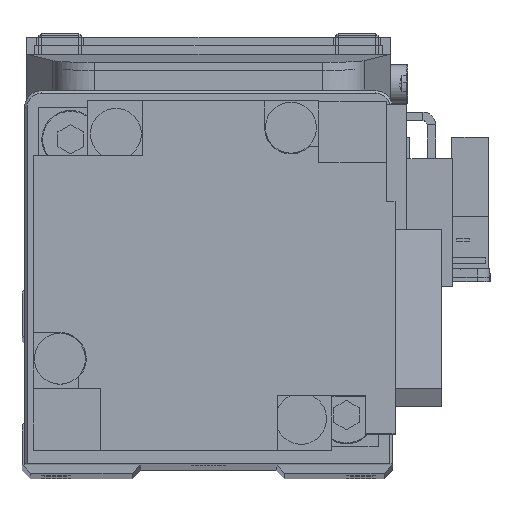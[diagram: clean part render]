
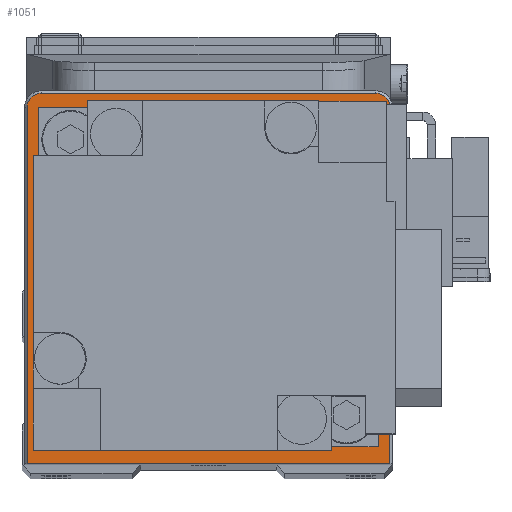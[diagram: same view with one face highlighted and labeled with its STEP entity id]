
A CAD part, top view. The second image highlights one B-rep face of the part: STEP entity #1051.
In plain terms, the highlighted planar face has unit normal (0, 0, 1).
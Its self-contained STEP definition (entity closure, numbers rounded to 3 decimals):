
#1051 = ADVANCED_FACE ( 'NONE', ( #70635, #3716 ), #70573, .T. ) ;
#1242 = VERTEX_POINT ( 'NONE', #4918 ) ;
#3233 = ORIENTED_EDGE ( 'NONE', *, *, #6795, .T. ) ;
#3716 = FACE_BOUND ( 'NONE', #69973, .T. ) ;
#4918 = CARTESIAN_POINT ( 'NONE',  ( 19.7, 36.726, 259. ) ) ;
#6082 = VERTEX_POINT ( 'NONE', #72092 ) ;
#6795 = EDGE_CURVE ( 'NONE', #1242, #46684, #64302, .T. ) ;
#7582 = EDGE_CURVE ( 'NONE', #46684, #23939, #64427, .T. ) ;
#8344 = EDGE_CURVE ( 'NONE', #26342, #6082, #35336, .T. ) ;
#9267 = LINE ( 'NONE', #75697, #79111 ) ;
#9299 = DIRECTION ( 'NONE',  ( 0., 0., 1. ) ) ;
#11796 = AXIS2_PLACEMENT_3D ( 'NONE', #32103, #44432, #37987 ) ;
#12313 = EDGE_CURVE ( 'NONE', #69557, #1242, #77857, .T. ) ;
#15103 = CARTESIAN_POINT ( 'NONE',  ( -19.7, 36.726, 259. ) ) ;
#21203 = CARTESIAN_POINT ( 'NONE',  ( 0., 15.026, 259. ) ) ;
#22538 = VECTOR ( 'NONE', #77718, 1000. ) ;
#22894 = ORIENTED_EDGE ( 'NONE', *, *, #7582, .T. ) ;
#23858 = ORIENTED_EDGE ( 'NONE', *, *, #8344, .F. ) ;
#23939 = VERTEX_POINT ( 'NONE', #29998 ) ;
#25938 = VECTOR ( 'NONE', #60278, 1000. ) ;
#26342 = VERTEX_POINT ( 'NONE', #35668 ) ;
#26433 = ORIENTED_EDGE ( 'NONE', *, *, #71758, .T. ) ;
#26927 = ORIENTED_EDGE ( 'NONE', *, *, #54982, .T. ) ;
#27902 = CARTESIAN_POINT ( 'NONE',  ( -19.7, 35.026, 259. ) ) ;
#28456 = DIRECTION ( 'NONE',  ( 0., 0., 1. ) ) ;
#29998 = CARTESIAN_POINT ( 'NONE',  ( -21.4, 35.026, 259. ) ) ;
#30746 = EDGE_CURVE ( 'NONE', #50946, #31516, #43610, .T. ) ;
#31516 = VERTEX_POINT ( 'NONE', #65260 ) ;
#31546 = CARTESIAN_POINT ( 'NONE',  ( -19.7, 36.726, 259. ) ) ;
#32103 = CARTESIAN_POINT ( 'NONE',  ( 0., 15.026, 259. ) ) ;
#35336 = CIRCLE ( 'NONE', #80724, 10. ) ;
#35668 = CARTESIAN_POINT ( 'NONE',  ( -10., 15.026, 259. ) ) ;
#35918 = EDGE_CURVE ( 'NONE', #6082, #26342, #71272, .T. ) ;
#37987 = DIRECTION ( 'NONE',  ( 1., 0., 0. ) ) ;
#38558 = CARTESIAN_POINT ( 'NONE',  ( 21.4, 35.026, 259. ) ) ;
#40435 = VECTOR ( 'NONE', #64424, 1000. ) ;
#42178 = CARTESIAN_POINT ( 'NONE',  ( 21.4, 35.026, 259. ) ) ;
#42918 = DIRECTION ( 'NONE',  ( 1., 0., 0. ) ) ;
#43014 = LINE ( 'NONE', #42178, #25938 ) ;
#43610 = LINE ( 'NONE', #77175, #22538 ) ;
#44432 = DIRECTION ( 'NONE',  ( 0., 0., 1. ) ) ;
#46684 = VERTEX_POINT ( 'NONE', #15103 ) ;
#47818 = CARTESIAN_POINT ( 'NONE',  ( 19.7, 35.026, 259. ) ) ;
#48405 = AXIS2_PLACEMENT_3D ( 'NONE', #21203, #59428, #71952 ) ;
#50946 = VERTEX_POINT ( 'NONE', #53769 ) ;
#51332 = ORIENTED_EDGE ( 'NONE', *, *, #35918, .F. ) ;
#53769 = CARTESIAN_POINT ( 'NONE',  ( -21.4, -6.974, 259. ) ) ;
#54487 = EDGE_LOOP ( 'NONE', ( #58797, #26927, #61770, #3233, #22894, #26433 ) ) ;
#54798 = CARTESIAN_POINT ( 'NONE',  ( 0., 15.026, 259. ) ) ;
#54982 = EDGE_CURVE ( 'NONE', #31516, #69557, #43014, .T. ) ;
#55909 = DIRECTION ( 'NONE',  ( 0., 0., 1. ) ) ;
#58243 = AXIS2_PLACEMENT_3D ( 'NONE', #27902, #28456, #79204 ) ;
#58797 = ORIENTED_EDGE ( 'NONE', *, *, #30746, .T. ) ;
#59428 = DIRECTION ( 'NONE',  ( 0., 0., 1. ) ) ;
#60278 = DIRECTION ( 'NONE',  ( 0., 1., 0. ) ) ;
#61770 = ORIENTED_EDGE ( 'NONE', *, *, #12313, .T. ) ;
#64302 = LINE ( 'NONE', #31546, #40435 ) ;
#64424 = DIRECTION ( 'NONE',  ( -1., 0., 0. ) ) ;
#64427 = CIRCLE ( 'NONE', #58243, 1.7 ) ;
#65260 = CARTESIAN_POINT ( 'NONE',  ( 21.4, -6.974, 259. ) ) ;
#69557 = VERTEX_POINT ( 'NONE', #38558 ) ;
#69973 = EDGE_LOOP ( 'NONE', ( #23858, #51332 ) ) ;
#70573 = PLANE ( 'NONE',  #48405 ) ;
#70635 = FACE_OUTER_BOUND ( 'NONE', #54487, .T. ) ;
#71272 = CIRCLE ( 'NONE', #11796, 10. ) ;
#71758 = EDGE_CURVE ( 'NONE', #23939, #50946, #9267, .T. ) ;
#71952 = DIRECTION ( 'NONE',  ( 1., 0., 0. ) ) ;
#72092 = CARTESIAN_POINT ( 'NONE',  ( 10., 15.026, 259. ) ) ;
#73698 = AXIS2_PLACEMENT_3D ( 'NONE', #47818, #9299, #79540 ) ;
#75697 = CARTESIAN_POINT ( 'NONE',  ( -21.4, -6.974, 259. ) ) ;
#77175 = CARTESIAN_POINT ( 'NONE',  ( -21.7, -6.974, 259. ) ) ;
#77718 = DIRECTION ( 'NONE',  ( 1., 0., 0. ) ) ;
#77857 = CIRCLE ( 'NONE', #73698, 1.7 ) ;
#79111 = VECTOR ( 'NONE', #81548, 1000. ) ;
#79204 = DIRECTION ( 'NONE',  ( 1., 0., 0. ) ) ;
#79540 = DIRECTION ( 'NONE',  ( 1., 0., 0. ) ) ;
#80724 = AXIS2_PLACEMENT_3D ( 'NONE', #54798, #55909, #42918 ) ;
#81548 = DIRECTION ( 'NONE',  ( 0., -1., 0. ) ) ;
